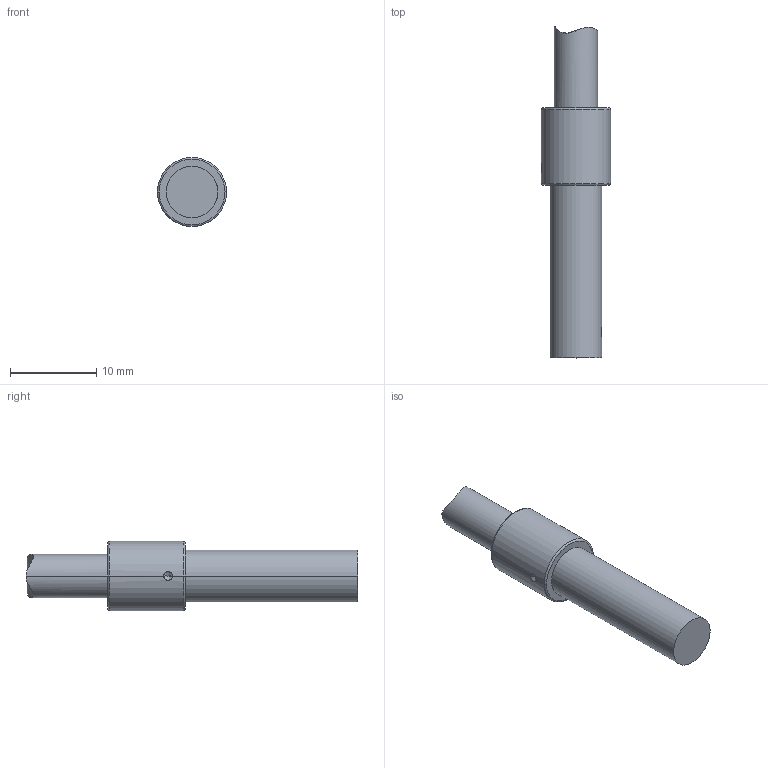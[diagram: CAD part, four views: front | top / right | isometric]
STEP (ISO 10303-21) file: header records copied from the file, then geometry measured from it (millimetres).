
FILE_DESCRIPTION((''),'2;1');
FILE_NAME('0000366402_PRT','2021-03-05T08:23:41',('pdmservice'),(''),'CREO PARAMETRIC BY PTC INC, 2018420','CREO PARAMETRIC BY PTC INC, 2018420','');
FILE_SCHEMA(('AUTOMOTIVE_DESIGN { 1 0 10303 214 1 1 1 1 }'));
Length unit declared in the file: millimetre
Products named in the file (1): 0000366402_PRT
Bounding box: 8 x 38.46 x 8 mm (x, y, z)
Volume: 1193.1 mm3; surface area: 843 mm2
Topology: 1 solids, 1 shells, 21 faces, 44 edges, 25 vertices
Faces by surface type: cylinder 10, plane 4, torus 4, cone 2, extrusion 1
Entity records: 1809 total; most frequent: CARTESIAN_POINT 263, PROPERTY_DEFINITION 122, REPRESENTATION 121, PROPERTY_DEFINITION_REPRESENTATION 121, DESCRIPTIVE_REPRESENTATION_ITEM 109, GENERAL_PROPERTY 104, GENERAL_PROPERTY_ASSOCIATION 104, DIRECTION 99
